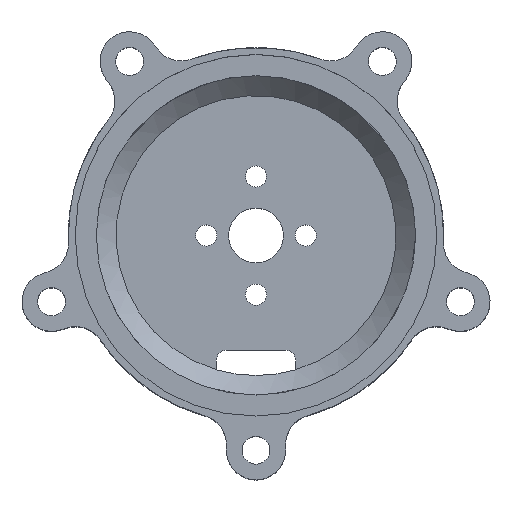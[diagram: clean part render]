
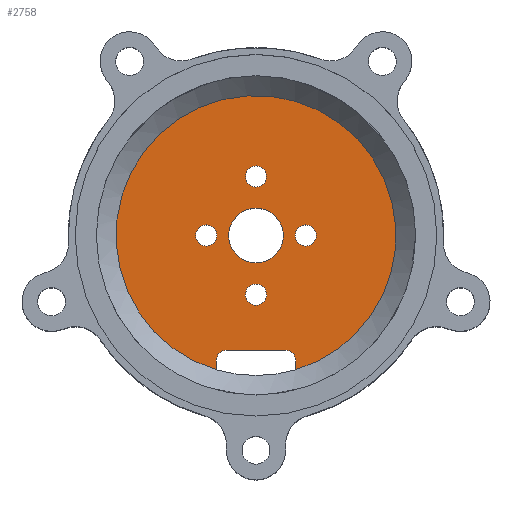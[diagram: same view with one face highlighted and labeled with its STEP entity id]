
A CAD part, top view. The second image highlights one B-rep face of the part: STEP entity #2758.
In plain terms, the highlighted planar face has unit normal (0, 0, 1).
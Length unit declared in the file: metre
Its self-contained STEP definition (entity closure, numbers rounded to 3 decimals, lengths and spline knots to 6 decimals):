
#37=PLANE('',#2936);
#108=CIRCLE('',#2937,0.0017);
#109=CIRCLE('',#2938,0.0017);
#110=CIRCLE('',#2939,0.0017);
#111=CIRCLE('',#2940,0.0017);
#112=CIRCLE('',#2941,0.004397);
#113=CIRCLE('',#2942,0.022494);
#114=CIRCLE('',#2943,0.001588);
#115=CIRCLE('',#2944,0.001588);
#255=LINE('',#4321,#477);
#256=LINE('',#4325,#478);
#257=LINE('',#4329,#479);
#477=VECTOR('',#3279,1.);
#478=VECTOR('',#3282,1.);
#479=VECTOR('',#3285,1.);
#739=ORIENTED_EDGE('',*,*,#1567,.T.);
#740=ORIENTED_EDGE('',*,*,#1568,.T.);
#741=ORIENTED_EDGE('',*,*,#1569,.T.);
#742=ORIENTED_EDGE('',*,*,#1570,.T.);
#743=ORIENTED_EDGE('',*,*,#1571,.T.);
#744=ORIENTED_EDGE('',*,*,#1572,.F.);
#745=ORIENTED_EDGE('',*,*,#1573,.T.);
#746=ORIENTED_EDGE('',*,*,#1574,.F.);
#747=ORIENTED_EDGE('',*,*,#1575,.T.);
#748=ORIENTED_EDGE('',*,*,#1576,.F.);
#749=ORIENTED_EDGE('',*,*,#1577,.T.);
#1567=EDGE_CURVE('',#1981,#1981,#108,.F.);
#1568=EDGE_CURVE('',#1982,#1982,#109,.F.);
#1569=EDGE_CURVE('',#1983,#1983,#110,.F.);
#1570=EDGE_CURVE('',#1984,#1984,#111,.F.);
#1571=EDGE_CURVE('',#1985,#1985,#112,.T.);
#1572=EDGE_CURVE('',#1986,#1987,#113,.T.);
#1573=EDGE_CURVE('',#1986,#1988,#255,.T.);
#1574=EDGE_CURVE('',#1989,#1988,#114,.T.);
#1575=EDGE_CURVE('',#1989,#1990,#256,.T.);
#1576=EDGE_CURVE('',#1991,#1990,#115,.T.);
#1577=EDGE_CURVE('',#1991,#1987,#257,.T.);
#1981=VERTEX_POINT('',#4309);
#1982=VERTEX_POINT('',#4311);
#1983=VERTEX_POINT('',#4313);
#1984=VERTEX_POINT('',#4315);
#1985=VERTEX_POINT('',#4317);
#1986=VERTEX_POINT('',#4319);
#1987=VERTEX_POINT('',#4320);
#1988=VERTEX_POINT('',#4322);
#1989=VERTEX_POINT('',#4324);
#1990=VERTEX_POINT('',#4326);
#1991=VERTEX_POINT('',#4328);
#2268=EDGE_LOOP('',(#739));
#2269=EDGE_LOOP('',(#740));
#2270=EDGE_LOOP('',(#741));
#2271=EDGE_LOOP('',(#742));
#2272=EDGE_LOOP('',(#743));
#2273=EDGE_LOOP('',(#744,#745,#746,#747,#748,#749));
#2486=FACE_BOUND('',#2268,.T.);
#2487=FACE_BOUND('',#2269,.T.);
#2488=FACE_BOUND('',#2270,.T.);
#2489=FACE_BOUND('',#2271,.T.);
#2490=FACE_BOUND('',#2272,.T.);
#2491=FACE_BOUND('',#2273,.T.);
#2758=ADVANCED_FACE('',(#2486,#2487,#2488,#2489,#2490,#2491),#37,.T.);
#2936=AXIS2_PLACEMENT_3D('',#4307,#3265,#3266);
#2937=AXIS2_PLACEMENT_3D('',#4308,#3267,#3268);
#2938=AXIS2_PLACEMENT_3D('',#4310,#3269,#3270);
#2939=AXIS2_PLACEMENT_3D('',#4312,#3271,#3272);
#2940=AXIS2_PLACEMENT_3D('',#4314,#3273,#3274);
#2941=AXIS2_PLACEMENT_3D('',#4316,#3275,#3276);
#2942=AXIS2_PLACEMENT_3D('',#4318,#3277,#3278);
#2943=AXIS2_PLACEMENT_3D('',#4323,#3280,#3281);
#2944=AXIS2_PLACEMENT_3D('',#4327,#3283,#3284);
#3265=DIRECTION('',(0.,0.,1.));
#3266=DIRECTION('',(1.,0.,0.));
#3267=DIRECTION('',(0.,0.,1.));
#3268=DIRECTION('',(1.,0.,0.));
#3269=DIRECTION('',(0.,0.,1.));
#3270=DIRECTION('',(1.,0.,0.));
#3271=DIRECTION('',(0.,0.,1.));
#3272=DIRECTION('',(1.,0.,0.));
#3273=DIRECTION('',(0.,0.,1.));
#3274=DIRECTION('',(1.,0.,0.));
#3275=DIRECTION('',(0.,0.,-1.));
#3276=DIRECTION('',(-1.,0.,0.));
#3277=DIRECTION('',(0.,0.,-1.));
#3278=DIRECTION('',(-1.,0.,0.));
#3279=DIRECTION('',(0.,1.,0.));
#3280=DIRECTION('',(0.,0.,1.));
#3281=DIRECTION('',(1.,0.,0.));
#3282=DIRECTION('',(1.,0.,0.));
#3283=DIRECTION('',(0.,0.,1.));
#3284=DIRECTION('',(1.,0.,0.));
#3285=DIRECTION('',(0.,-1.,0.));
#4307=CARTESIAN_POINT('',(0.013445,0.,0.016891));
#4308=CARTESIAN_POINT('',(-0.008,0.,0.016891));
#4309=CARTESIAN_POINT('',(-0.0063,0.,0.016891));
#4310=CARTESIAN_POINT('',(0.008,0.,0.016891));
#4311=CARTESIAN_POINT('',(0.0097,0.,0.016891));
#4312=CARTESIAN_POINT('',(0.,0.0095,0.016891));
#4313=CARTESIAN_POINT('',(0.0017,0.0095,0.016891));
#4314=CARTESIAN_POINT('',(0.,-0.0095,0.016891));
#4315=CARTESIAN_POINT('',(0.0017,-0.0095,0.016891));
#4316=CARTESIAN_POINT('',(0.,0.,0.016891));
#4317=CARTESIAN_POINT('',(-0.004397,0.,0.016891));
#4318=CARTESIAN_POINT('',(0.,0.,0.016891));
#4319=CARTESIAN_POINT('',(-0.00635,-0.021579,0.016891));
#4320=CARTESIAN_POINT('',(0.00635,-0.021579,0.016891));
#4321=CARTESIAN_POINT('',(-0.00635,-0.020785,0.016891));
#4322=CARTESIAN_POINT('',(-0.00635,-0.019991,0.016891));
#4323=CARTESIAN_POINT('',(-0.004763,-0.019991,0.016891));
#4324=CARTESIAN_POINT('',(-0.004763,-0.018404,0.016891));
#4325=CARTESIAN_POINT('',(0.,-0.018404,0.016891));
#4326=CARTESIAN_POINT('',(0.004763,-0.018404,0.016891));
#4327=CARTESIAN_POINT('',(0.004763,-0.019991,0.016891));
#4328=CARTESIAN_POINT('',(0.00635,-0.019991,0.016891));
#4329=CARTESIAN_POINT('',(0.00635,-0.020785,0.016891));
